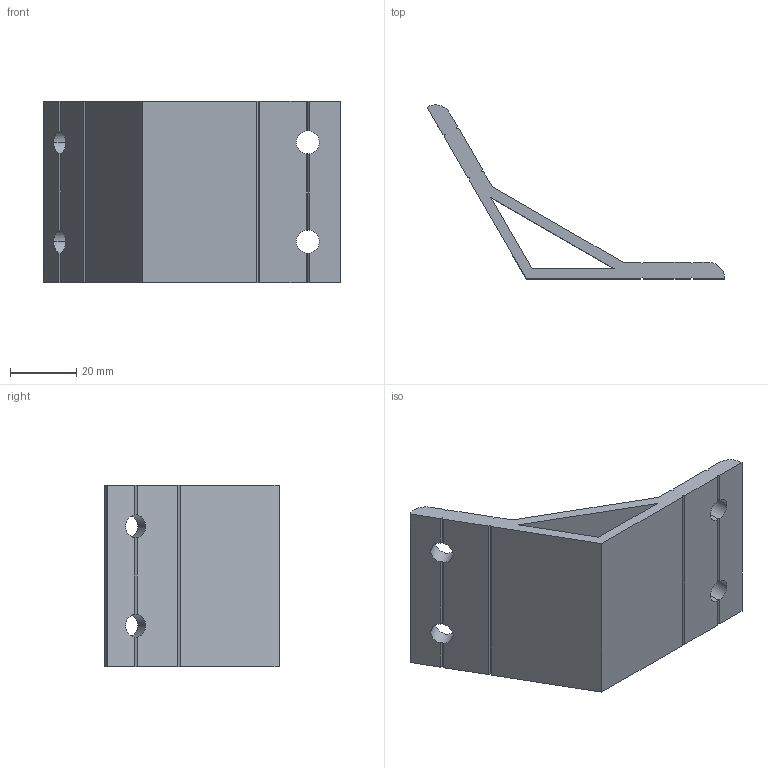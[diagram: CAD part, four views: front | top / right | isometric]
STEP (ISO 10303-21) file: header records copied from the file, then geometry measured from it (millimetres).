
FILE_DESCRIPTION (( 'STEP AP203' ), '1' );
FILE_NAME ('WA55120-6.STEP', '2024-02-17T07:41:52', ( '' ), ( '' ), 'SwSTEP 2.0', 'SolidWorks 2022', '' );
FILE_SCHEMA (( 'CONFIG_CONTROL_DESIGN' ));
Length unit declared in the file: millimetre
Products named in the file (1): WA55120-6
Bounding box: 90 x 52.63 x 55 mm (x, y, z)
Volume: 32440.4 mm3; surface area: 19433.4 mm2
Topology: 1 solids, 1 shells, 60 faces, 190 edges, 124 vertices
Faces by surface type: plane 50, cylinder 10
Entity records: 2175 total; most frequent: CARTESIAN_POINT 471, ORIENTED_EDGE 380, DIRECTION 308, EDGE_CURVE 190, LINE 130, VECTOR 130, VERTEX_POINT 124, AXIS2_PLACEMENT_3D 89
